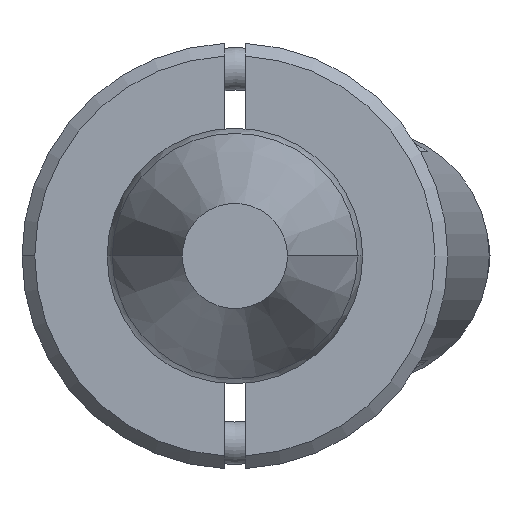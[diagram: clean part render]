
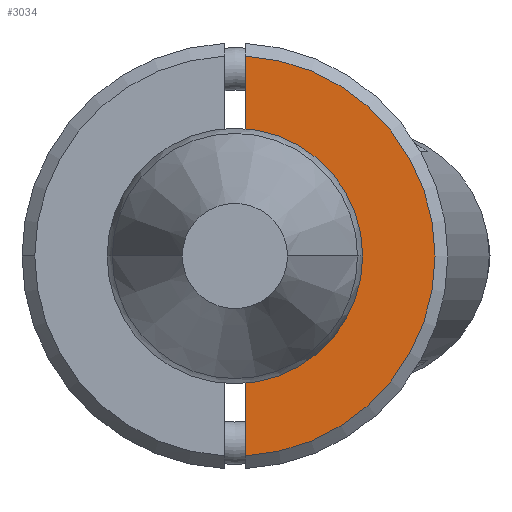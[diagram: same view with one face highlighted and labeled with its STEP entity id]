
A CAD part, front view. The second image highlights one B-rep face of the part: STEP entity #3034.
In plain terms, the highlighted planar face has unit normal (0, -1, 0).
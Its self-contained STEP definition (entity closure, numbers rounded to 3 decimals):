
#52 = PLANE ( 'NONE',  #1248 ) ;
#107 = CARTESIAN_POINT ( 'NONE',  ( -4.693, -6., -0.25 ) ) ;
#116 = EDGE_CURVE ( 'NONE', #2014, #640, #869, .T. ) ;
#193 = DIRECTION ( 'NONE',  ( 0., 1., 0. ) ) ;
#202 = EDGE_LOOP ( 'NONE', ( #1858, #1160, #2349, #1838, #319 ) ) ;
#319 = ORIENTED_EDGE ( 'NONE', *, *, #1636, .T. ) ;
#387 = AXIS2_PLACEMENT_3D ( 'NONE', #1093, #2555, #3464 ) ;
#434 = VERTEX_POINT ( 'NONE', #1276 ) ;
#586 = DIRECTION ( 'NONE',  ( 0., 0., -1. ) ) ;
#640 = VERTEX_POINT ( 'NONE', #1800 ) ;
#869 = CIRCLE ( 'NONE', #387, 4.7 ) ;
#1093 = CARTESIAN_POINT ( 'NONE',  ( 0., -6., 0. ) ) ;
#1114 = VECTOR ( 'NONE', #1366, 1000. ) ;
#1160 = ORIENTED_EDGE ( 'NONE', *, *, #116, .T. ) ;
#1168 = CIRCLE ( 'NONE', #2475, 2.45 ) ;
#1248 = AXIS2_PLACEMENT_3D ( 'NONE', #2076, #3546, #586 ) ;
#1272 = CARTESIAN_POINT ( 'NONE',  ( 2.437, -6., -0.25 ) ) ;
#1276 = CARTESIAN_POINT ( 'NONE',  ( -2.437, -6., -0.25 ) ) ;
#1366 = DIRECTION ( 'NONE',  ( 1., 0., 0. ) ) ;
#1636 = EDGE_CURVE ( 'NONE', #2931, #434, #1168, .T. ) ;
#1800 = CARTESIAN_POINT ( 'NONE',  ( 4.693, -6., -0.25 ) ) ;
#1838 = ORIENTED_EDGE ( 'NONE', *, *, #2660, .T. ) ;
#1843 = DIRECTION ( 'NONE',  ( 0., 1., 0. ) ) ;
#1858 = ORIENTED_EDGE ( 'NONE', *, *, #3444, .F. ) ;
#1896 = VECTOR ( 'NONE', #3254, 1000. ) ;
#1946 = CARTESIAN_POINT ( 'NONE',  ( -5., -6., -0.25 ) ) ;
#1963 = EDGE_CURVE ( 'NONE', #3768, #640, #2928, .T. ) ;
#1997 = DIRECTION ( 'NONE',  ( 0., 0., -1. ) ) ;
#2014 = VERTEX_POINT ( 'NONE', #107 ) ;
#2076 = CARTESIAN_POINT ( 'NONE',  ( -5., -6., 0. ) ) ;
#2205 = CIRCLE ( 'NONE', #2951, 2.45 ) ;
#2349 = ORIENTED_EDGE ( 'NONE', *, *, #1963, .F. ) ;
#2475 = AXIS2_PLACEMENT_3D ( 'NONE', #3773, #193, #1997 ) ;
#2490 = DIRECTION ( 'NONE',  ( 0., 0., -1. ) ) ;
#2555 = DIRECTION ( 'NONE',  ( 0., -1., 0. ) ) ;
#2600 = CARTESIAN_POINT ( 'NONE',  ( 0., -6., -2.45 ) ) ;
#2660 = EDGE_CURVE ( 'NONE', #3768, #2931, #2205, .T. ) ;
#2928 = LINE ( 'NONE', #3613, #1896 ) ;
#2931 = VERTEX_POINT ( 'NONE', #2600 ) ;
#2951 = AXIS2_PLACEMENT_3D ( 'NONE', #3322, #1843, #2490 ) ;
#3034 = ADVANCED_FACE ( 'NONE', ( #3255 ), #52, .T. ) ;
#3254 = DIRECTION ( 'NONE',  ( 1., 0., 0. ) ) ;
#3255 = FACE_OUTER_BOUND ( 'NONE', #202, .T. ) ;
#3322 = CARTESIAN_POINT ( 'NONE',  ( 0., -6., 0. ) ) ;
#3433 = LINE ( 'NONE', #1946, #1114 ) ;
#3444 = EDGE_CURVE ( 'NONE', #2014, #434, #3433, .T. ) ;
#3464 = DIRECTION ( 'NONE',  ( 0., 0., -1. ) ) ;
#3546 = DIRECTION ( 'NONE',  ( 0., -1., 0. ) ) ;
#3613 = CARTESIAN_POINT ( 'NONE',  ( -5., -6., -0.25 ) ) ;
#3768 = VERTEX_POINT ( 'NONE', #1272 ) ;
#3773 = CARTESIAN_POINT ( 'NONE',  ( 0., -6., 0. ) ) ;
